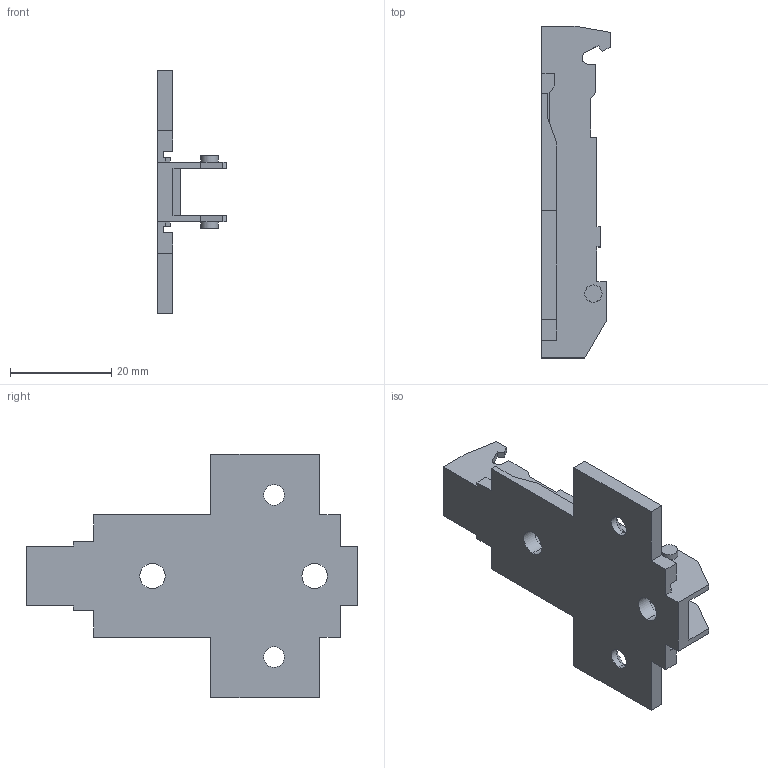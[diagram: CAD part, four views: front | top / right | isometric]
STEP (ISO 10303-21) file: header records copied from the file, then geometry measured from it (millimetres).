
FILE_DESCRIPTION (( 'STEP AP214' ), '1' );
FILE_NAME ('1D_Kreuzmontageplatte 28_32_Spax_3.step', '2010-11-18T10:18:35', ( 'grass' ), ( '' ), 'SwSTEP 2.0', 'SolidWorks 2010', '' );
FILE_SCHEMA (( 'AUTOMOTIVE_DESIGN' ));
Length unit declared in the file: millimetre
Products named in the file (1): 1D_Kreuzmontageplatte 28_32_Spax_3
Bounding box: 13.5 x 65.5 x 48 mm (x, y, z)
Volume: 6477.7 mm3; surface area: 6920 mm2
Topology: 1 solids, 1 shells, 104 faces, 296 edges, 196 vertices
Faces by surface type: plane 82, cylinder 18, cone 4
Entity records: 3398 total; most frequent: CARTESIAN_POINT 597, ORIENTED_EDGE 592, DIRECTION 546, EDGE_CURVE 296, LINE 256, VECTOR 256, VERTEX_POINT 196, AXIS2_PLACEMENT_3D 145
